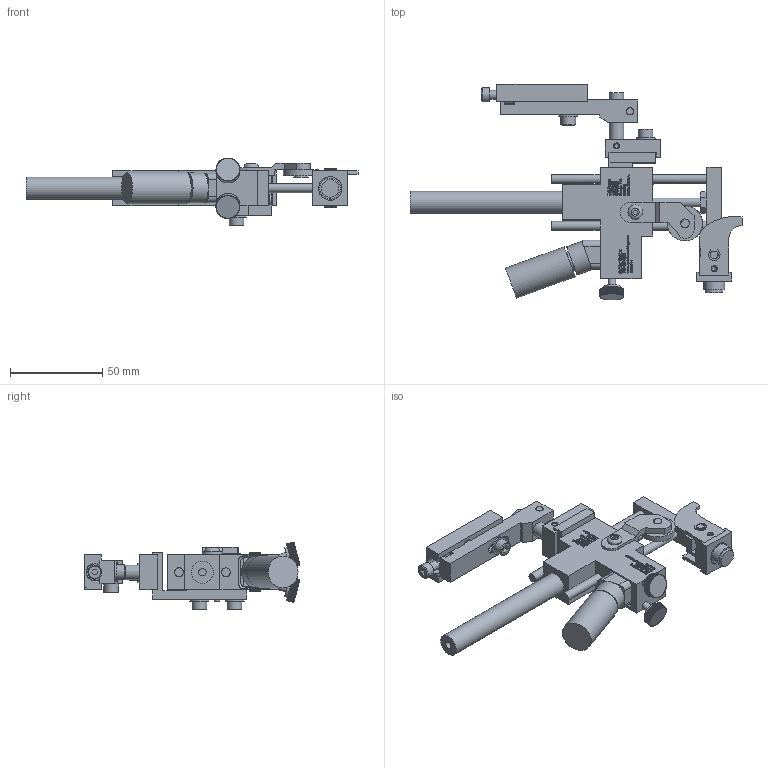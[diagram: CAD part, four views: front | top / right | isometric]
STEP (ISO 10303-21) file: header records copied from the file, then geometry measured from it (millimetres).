
FILE_DESCRIPTION((''),'2;1');
FILE_NAME('C:\Documents and Settings\Ron\My Documents\Inventor\Sprinter Drawing\Machines in Inventor\Model 44\Dot\3-eight\Std\Brkt\90\Model 44 STD .375 Dia Dot 90 Deg w Brkt.stp','2009-01-14T14:14:36',('Ron'),(''),'Autodesk Inventor 2008','Autodesk Inventor 2008','');
FILE_SCHEMA(('AUTOMOTIVE_DESIGN { 1 0 10303 214 1 1 1 1 }'));
Length unit declared in the file: inch
Products named in the file (1): Model 44 STD .375 Dia Dot 90 Deg w Brkt
Bounding box: 180.11 x 117.12 x 36.82 mm (x, y, z)
Volume: 104316.6 mm3; surface area: 51531.7 mm2
Topology: 30 solids, 30 shells, 6191 faces, 15367 edges, 9499 vertices
Faces by surface type: plane 4348, bspline 1319, cylinder 472, cone 46, torus 6
Full cylindrical faces by diameter (mm): 3.175 x4, 3.302 x1, 3.962 x1, 4.064 x6, 4.166 x1, 4.699 x1, 4.75 x4, 4.775 x1, 4.826 x7, 5.144 x1, 5.156 x5, 5.207 x2, 5.41 x2, 6.096 x1, 6.274 x2, 7.239 x1, 7.62 x1, 7.925 x7, 7.938 x1, 8.128 x1, 9.017 x1, 9.525 x3, 10.312 x4, 10.922 x1, 11.036 x1, 11.303 x1, 11.938 x2, 12.522 x1, 14.478 x1, 16.256 x1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
Entity records: 197138 total; most frequent: CARTESIAN_POINT 53997, ORIENTED_EDGE 30288, DIRECTION 23510, EDGE_CURVE 15144, VECTOR 11390, LINE 11390, VERTEX_POINT 9432, EDGE_LOOP 6746
